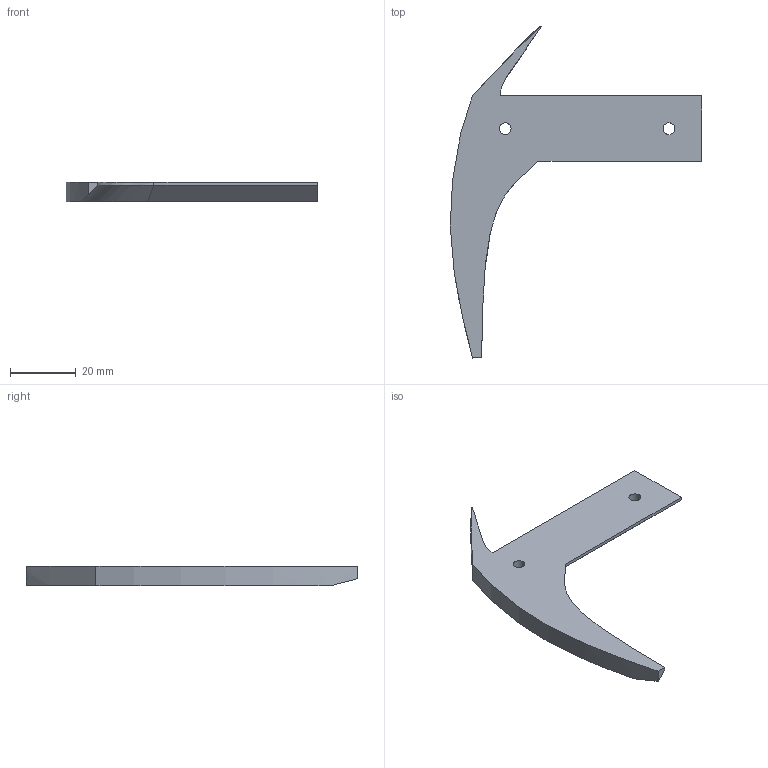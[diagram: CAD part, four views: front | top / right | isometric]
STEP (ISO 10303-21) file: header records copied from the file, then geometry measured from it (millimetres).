
FILE_DESCRIPTION(/* description */ ('STEP AP242 Edition 2','CAx-IF Rec.Pracs.---Representation and Presentation of Product Manufacturing Information (PMI)---4.0---2014-10-13','CAx-IF Rec.Pracs.---3D Tessellated Geometry---0.4---2014-09-14','2;1','CAx-IF Rec.Pracs.---User Defined Attributes---1.5---2016-08-15'),/* implementation_level */ '2;1');
FILE_NAME(/* name */ 'Arm Parts - Claw1',/* time_stamp */ '2026-04-22T00:04:13Z',/* author */ (''),/* organization */ (''),/* preprocessor_version */ 'ST-DEVELOPER v20',/* originating_system */ 'ONSHAPE BY PTC INC, 1.213',/* authorisation */ ' ');
FILE_SCHEMA (('AP242_MANAGED_MODEL_BASED_3D_ENGINEERING_MIM_LF { 1 0 10303 442 3 1 4 }'));
Length unit declared in the file: metre
Products named in the file (1): Claw1
Bounding box: 76.76 x 101.33 x 6 mm (x, y, z)
Volume: 10826.5 mm3; surface area: 5974 mm2
Topology: 1 solids, 1 shells, 14 faces, 36 edges, 24 vertices
Faces by surface type: plane 8, bspline 4, cylinder 2
Full cylindrical faces by diameter (mm): 3.6 x2
Entity records: 640 total; most frequent: CARTESIAN_POINT 305, ORIENTED_EDGE 68, DIRECTION 48, EDGE_CURVE 34, VERTEX_POINT 24, EDGE_LOOP 20, FACE_BOUND 20, LINE 18
